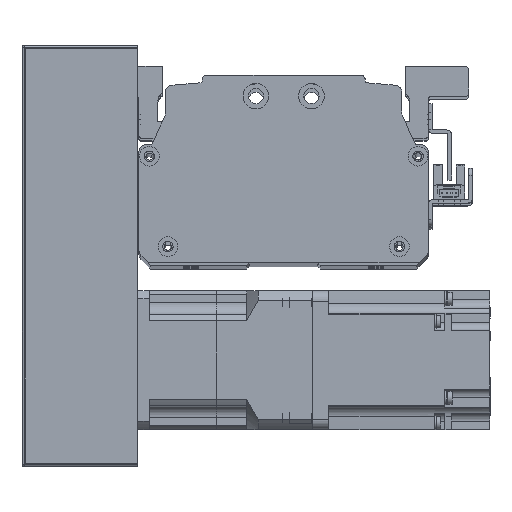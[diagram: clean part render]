
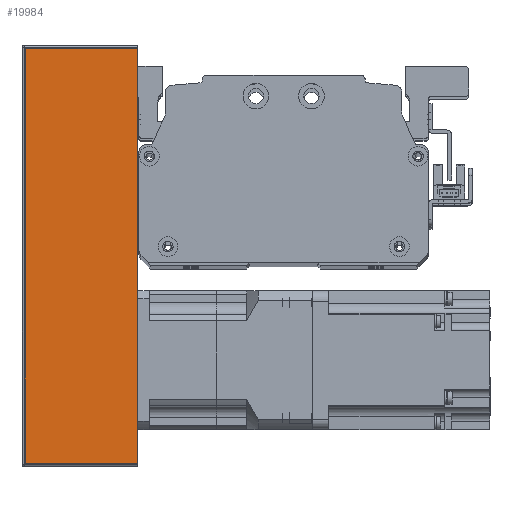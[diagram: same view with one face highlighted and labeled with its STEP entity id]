
A CAD part, top view. The second image highlights one B-rep face of the part: STEP entity #19984.
In plain terms, the highlighted planar face has unit normal (0, 0, 1) as drawn and (0, 1, 0) by its records, which use the part's own axes.
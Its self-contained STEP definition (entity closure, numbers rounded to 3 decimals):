
#609=PLANE('',#21976);
#1812=LINE('',#32929,#3436);
#1829=LINE('',#32983,#3453);
#1834=LINE('',#33007,#3458);
#1853=LINE('',#33070,#3477);
#3436=VECTOR('',#26627,10.);
#3453=VECTOR('',#26680,10.);
#3458=VECTOR('',#26717,10.);
#3477=VECTOR('',#26800,10.);
#5864=FACE_OUTER_BOUND('',#7332,.T.);
#7332=EDGE_LOOP('',(#17263,#17264,#17265,#17266));
#10197=VERTEX_POINT('',#32926);
#10198=VERTEX_POINT('',#32928);
#10216=VERTEX_POINT('',#32980);
#10217=VERTEX_POINT('',#32982);
#12648=EDGE_CURVE('',#10197,#10198,#1812,.T.);
#12676=EDGE_CURVE('',#10216,#10217,#1829,.T.);
#12690=EDGE_CURVE('',#10198,#10216,#1834,.T.);
#12721=EDGE_CURVE('',#10217,#10197,#1853,.T.);
#17263=ORIENTED_EDGE('',*,*,#12676,.F.);
#17264=ORIENTED_EDGE('',*,*,#12690,.F.);
#17265=ORIENTED_EDGE('',*,*,#12648,.F.);
#17266=ORIENTED_EDGE('',*,*,#12721,.F.);
#19984=ADVANCED_FACE('',(#5864),#609,.T.);
#21976=AXIS2_PLACEMENT_3D('',#33069,#26798,#26799);
#26627=DIRECTION('',(-1.,0.,0.));
#26680=DIRECTION('',(1.,0.,0.));
#26717=DIRECTION('',(0.,0.,-1.));
#26798=DIRECTION('center_axis',(0.,1.,0.));
#26799=DIRECTION('ref_axis',(-1.,0.,0.));
#26800=DIRECTION('',(0.,0.,1.));
#32926=CARTESIAN_POINT('',(90.,38.,25.));
#32928=CARTESIAN_POINT('',(-90.,38.,25.));
#32929=CARTESIAN_POINT('',(-91.,38.,25.));
#32980=CARTESIAN_POINT('',(-90.,38.,-24.));
#32982=CARTESIAN_POINT('',(90.,38.,-24.));
#32983=CARTESIAN_POINT('',(45.5,38.,-24.));
#33007=CARTESIAN_POINT('',(-90.,38.,0.));
#33069=CARTESIAN_POINT('Origin',(91.,38.,0.));
#33070=CARTESIAN_POINT('',(90.,38.,0.));
